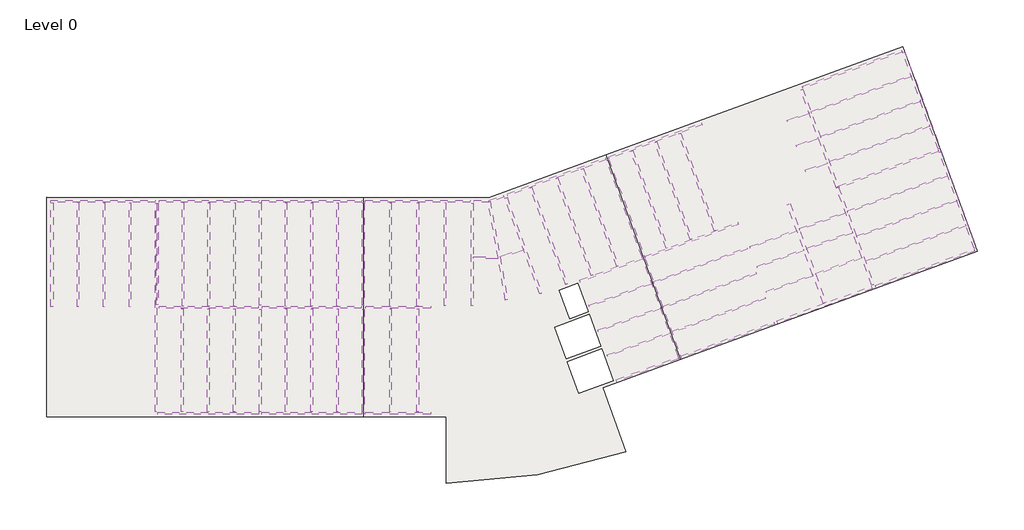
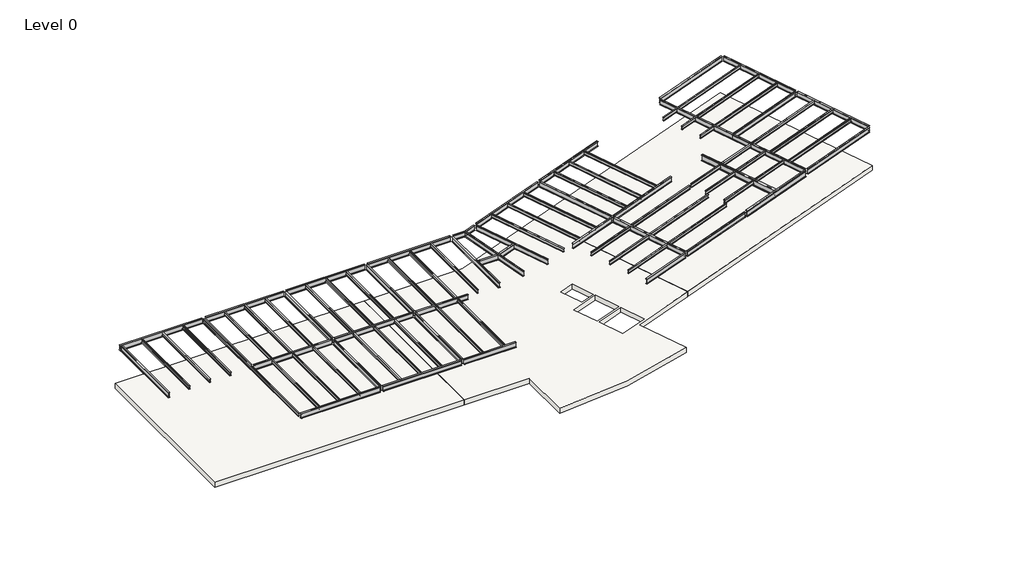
# One storey: 87 beams, 1 slab.
"""IFC4 building model written with IfcOpenShell, lengths in millimetres."""

from ifc_helpers import new_model, si_unit, point, frame, frame_2d, origin, place, context, project, spatial, polyline, circle_curve, trimmed, segment, composite_curve, outline, extrude, transform, mapped, element, save
from components import beam_3adde7b2, ub_universal_beams_d270934e, ub_universal_beams_e915e172, ub_universal_beams_a95554c7, ub_universal_beams_b6dbdd7a, ub_universal_beams_9ada3ad7, ub_universal_beams_885cc86f, ub_universal_beams_c84566a2, ub_universal_beams_4841b023, ub_universal_beams_bb2d3bd6, ub_universal_beams_20791346, ub_universal_beams_18d3feb0, ub_universal_beams_59459dd6, ub_universal_beams_568b5c51, ub_universal_beams_e00400c9, ub_universal_beams_14baedf7, ub_universal_beams_54dd217e, ub_universal_beams_f823aa85, ub_universal_beams_cdbcbb51, ub_universal_beams_2db27d90, ub_universal_beams_feb0265b, ub_universal_beams_78ad538f, ub_universal_beams_801fcbf0, ub_universal_beams_c91190e6, ub_universal_beams_7192e0ee, ub_universal_beams_e0a47d06, ub_universal_beams_f5dc209c, ub_universal_beams_f862a4b8, ub_universal_beams_0fc11a2d, ub_universal_beams_656765b2, ub_universal_beams_21f5ef47, ub_universal_beams_7b4bcd9a, ub_universal_beams_8d1efc97, ub_universal_beams_2b7a043a, ub_universal_beams_8d2b0bf5, ub_universal_beams_37de3949, ub_universal_beams_43212cfb, ub_universal_beams_777f85ab, ub_universal_beams_8ec85ef7, ub_universal_beams_16a75a32, ub_universal_beams_b9a7bbe5, ub_universal_beams_60794b88, ub_universal_beams_0c249d50

model = new_model("IFC4")

# Units and contexts
model_context = context("Model", 3, world=origin())
ifc_project = project(units=[si_unit("LENGTHUNIT", "METRE", prefix="MILLI")], contexts=[model_context])

# Site, building, storey
site = spatial("IfcSite", under=ifc_project)
building = spatial("IfcBuilding", under=site)
storey = spatial("IfcBuildingStorey", under=building, Name="Level 0", Elevation=0.0)

# Beams
placement = place(None, origin())
beam_shape = beam_3adde7b2(model_context)
element("IfcBeam", 1, ObjectType="Cranked Beam B1 : Cranked Beam B1", at=placement, inside=storey, context=model_context, shape_type="MappedRepresentation", body=[
    mapped(beam_shape, transform((0.0, 0.0, 0.0), x_axis=(1.0, 0.0, 0.0), y_axis=(0.0, 1.0, 0.0), z_axis=(0.0, 0.0, 1.0))),
])
ub_universal_beams_shape = ub_universal_beams_d270934e(model_context)
element("IfcBeam", 2, ObjectType="UB-Universal Beams : UB 18\" x 6\" x 2 1/2\"", at=placement, inside=storey, context=model_context, shape_type="MappedRepresentation", body=[
    mapped(ub_universal_beams_shape, transform((4212.2000022, 15363.2000005, 3466.0), x_axis=(1.0, 0.0, 0.0), y_axis=(0.0, 1.0, 0.0), z_axis=(0.0, 0.0, 1.0))),
])
ub_universal_beams_2_shape = ub_universal_beams_e915e172(model_context)
element("IfcBeam", 3, ObjectType="UB-Universal Beams : UB 18\" x 6\" x 2 1/2\"", at=placement, inside=storey, context=model_context, shape_type="MappedRepresentation", body=[
    mapped(ub_universal_beams_2_shape, transform((11712.2000023, 15363.2000005, 3466.0), x_axis=(1.0, 0.0, 0.0), y_axis=(0.0, 1.0, 0.0), z_axis=(0.0, 0.0, 1.0))),
])
ub_universal_beams_3_shape = ub_universal_beams_a95554c7(model_context)
element("IfcBeam", 4, ObjectType="UB-Universal Beams : UB 18\" x 6\" x 2 1/2\"", at=placement, inside=storey, context=model_context, shape_type="MappedRepresentation", body=[
    mapped(ub_universal_beams_3_shape, transform((19012.2000023, 15363.2000005, 3466.0), x_axis=(1.0, 0.0, 0.0), y_axis=(0.0, 1.0, 0.0), z_axis=(0.0, 0.0, 1.0))),
])
element("IfcBeam", 5, ObjectType="UB-Universal Beams : UB 18\" x 6\" x 2 1/2\"", at=placement, inside=storey, context=model_context, shape_type="MappedRepresentation", body=[
    mapped(ub_universal_beams_3_shape, transform((19012.2000022, 363.2000005, 3466.0), x_axis=(1.0, 0.0, 0.0), y_axis=(0.0, 1.0, 0.0), z_axis=(0.0, 0.0, 1.0))),
])
ub_universal_beams_4_shape = ub_universal_beams_b6dbdd7a(model_context)
element("IfcBeam", 6, ObjectType="UB-Universal Beams : UB 18\" x 6\" x 2 1/2\"", at=placement, inside=storey, context=model_context, shape_type="MappedRepresentation", body=[
    mapped(ub_universal_beams_4_shape, transform((26512.2000022, 15363.2000005, 3466.0), x_axis=(1.0, 0.0, 0.0), y_axis=(0.0, 1.0, 0.0), z_axis=(0.0, 0.0, 1.0))),
])
ub_universal_beams_5_shape = ub_universal_beams_9ada3ad7(model_context)
element("IfcBeam", 7, ObjectType="UB-Universal Beams : UB 18\" x 6\" x 2 1/2\"", at=placement, inside=storey, context=model_context, shape_type="MappedRepresentation", body=[
    mapped(ub_universal_beams_5_shape, transform((11674.7000023, 7863.2000004, 3466.0), x_axis=(-1.0, 0.0, 0.0), y_axis=(0.0, -1.0, 0.0), z_axis=(0.0, 0.0, 1.0))),
])
ub_universal_beams_6_shape = ub_universal_beams_885cc86f(model_context)
element("IfcBeam", 8, ObjectType="UB-Universal Beams : UB 18\" x 6\" x 2 1/2\"", at=placement, inside=storey, context=model_context, shape_type="MappedRepresentation", body=[
    mapped(ub_universal_beams_6_shape, transform((11674.7000023, 363.2000005, 3466.0), x_axis=(-1.0, 0.0, 0.0), y_axis=(0.0, -1.0, 0.0), z_axis=(0.0, 0.0, 1.0))),
])
ub_universal_beams_7_shape = ub_universal_beams_c84566a2(model_context)
element("IfcBeam", 9, ObjectType="UB-Universal Beams : UB 18\" x 6\" x 2 1/2\"", at=placement, inside=storey, context=model_context, shape_type="MappedRepresentation", body=[
    mapped(ub_universal_beams_7_shape, transform((19012.2000023, 7863.2000004, 3466.0), x_axis=(1.0, 0.0, 0.0), y_axis=(0.0, 1.0, 0.0), z_axis=(0.0, 0.0, 1.0))),
])
ub_universal_beams_8_shape = ub_universal_beams_4841b023(model_context)
element("IfcBeam", 10, ObjectType="UB-Universal Beams : UB 18\" x 6\" x 2 1/2\"", at=placement, inside=storey, context=model_context, shape_type="MappedRepresentation", body=[
    mapped(ub_universal_beams_8_shape, transform((25112.2000025, 7863.2000004, 3466.0), x_axis=(1.0, 0.0, 0.0), y_axis=(0.0, 1.0, 0.0), z_axis=(0.0, 0.0, 1.0))),
])
ub_universal_beams_9_shape = ub_universal_beams_bb2d3bd6(model_context)
element("IfcBeam", 11, ObjectType="UB-Universal Beams : UB 18\" x 6\" x 2 1/2\"", at=placement, inside=storey, context=model_context, shape_type="MappedRepresentation", body=[
    mapped(ub_universal_beams_9_shape, transform((614.1000027, 11575.7000004, 3466.0), x_axis=(0.0, 1.0, 0.0), y_axis=(-1.0, 0.0, 0.0), z_axis=(0.0, 0.0, 1.0))),
])
ub_universal_beams_10_shape = ub_universal_beams_20791346(model_context)
element("IfcBeam", 12, ObjectType="UB-Universal Beams : UB 18\" x 6\" x 2 1/2\"", at=placement, inside=storey, context=model_context, shape_type="MappedRepresentation", body=[
    mapped(ub_universal_beams_10_shape, transform((25112.2000025, 363.2000005, 3466.0), x_axis=(1.0, 0.0, 0.0), y_axis=(0.0, 1.0, 0.0), z_axis=(0.0, 0.0, 1.0))),
])
ub_universal_beams_11_shape = ub_universal_beams_18d3feb0(model_context)
element("IfcBeam", 13, ObjectType="UB-Universal Beams : UB 18\" x 6\" x 2 1/2\"", at=placement, inside=storey, context=model_context, shape_type="MappedRepresentation", body=[
    mapped(ub_universal_beams_11_shape, transform((8062.2000022, 11613.2000005, 3466.0), x_axis=(0.0, 1.0, 0.0), y_axis=(-1.0, 0.0, 0.0), z_axis=(0.0, 0.0, 1.0))),
])
ub_universal_beams_12_shape = ub_universal_beams_59459dd6(model_context)
element("IfcBeam", 14, ObjectType="UB-Universal Beams : UB 18\" x 6\" x 2 1/2\"", at=placement, inside=storey, context=model_context, shape_type="MappedRepresentation", body=[
    mapped(ub_universal_beams_12_shape, transform((15362.2000023, 4113.2000005, 3466.0), x_axis=(0.0, 1.0, 0.0), y_axis=(-1.0, 0.0, 0.0), z_axis=(0.0, 0.0, 1.0))),
])
element("IfcBeam", 15, ObjectType="UB-Universal Beams : UB 18\" x 6\" x 2 1/2\"", at=placement, inside=storey, context=model_context, shape_type="MappedRepresentation", body=[
    mapped(ub_universal_beams_12_shape, transform((22662.2000022, 4113.2000005, 3466.0), x_axis=(0.0, 1.0, 0.0), y_axis=(-1.0, 0.0, 0.0), z_axis=(0.0, 0.0, 1.0))),
])
ub_universal_beams_13_shape = ub_universal_beams_568b5c51(model_context)
element("IfcBeam", 16, ObjectType="UB-Universal Beams : UB 18\" x 6\" x 2 1/2\"", at=placement, inside=storey, context=model_context, shape_type="MappedRepresentation", body=[
    mapped(ub_universal_beams_13_shape, transform((15362.2000023, 11613.2000005, 3466.0), x_axis=(0.0, 1.0, 0.0), y_axis=(-1.0, 0.0, 0.0), z_axis=(0.0, 0.0, 1.0))),
])
element("IfcBeam", 17, ObjectType="UB-Universal Beams : UB 18\" x 6\" x 2 1/2\"", at=placement, inside=storey, context=model_context, shape_type="MappedRepresentation", body=[
    mapped(ub_universal_beams_13_shape, transform((22662.2000022, 11613.2000005, 3466.0), x_axis=(0.0, 1.0, 0.0), y_axis=(-1.0, 0.0, 0.0), z_axis=(0.0, 0.0, 1.0))),
])
ub_universal_beams_14_shape = ub_universal_beams_e00400c9(model_context)
element("IfcBeam", 18, ObjectType="UB-Universal Beams : UB 18\" x 6\" x 2 1/2\"", at=placement, inside=storey, context=model_context, shape_type="MappedRepresentation", body=[
    mapped(ub_universal_beams_14_shape, transform((30362.2000022, 11613.2000005, 3466.0), x_axis=(0.0, 1.0, 0.0), y_axis=(-1.0, 0.0, 0.0), z_axis=(0.0, 0.0, 1.0))),
])
ub_universal_beams_15_shape = ub_universal_beams_14baedf7(model_context)
element("IfcBeam", 19, ObjectType="UB-Universal Beams : UB 12\" x 5\" x 1 1/2\"", at=placement, inside=storey, context=model_context, shape_type="MappedRepresentation", body=[
    mapped(ub_universal_beams_15_shape, transform((2457.6125027, 11575.7000004, 3542.8), x_axis=(0.0, 1.0, 0.0), y_axis=(-1.0, 0.0, 0.0), z_axis=(0.0, 0.0, 1.0))),
])
element("IfcBeam", 20, ObjectType="UB-Universal Beams : UB 12\" x 5\" x 1 1/2\"", at=placement, inside=storey, context=model_context, shape_type="MappedRepresentation", body=[
    mapped(ub_universal_beams_15_shape, transform((4301.1250026, 11575.7000004, 3542.8), x_axis=(0.0, 1.0, 0.0), y_axis=(-1.0, 0.0, 0.0), z_axis=(0.0, 0.0, 1.0))),
])
element("IfcBeam", 21, ObjectType="UB-Universal Beams : UB 12\" x 5\" x 1 1/2\"", at=placement, inside=storey, context=model_context, shape_type="MappedRepresentation", body=[
    mapped(ub_universal_beams_15_shape, transform((6144.6375025, 11575.7000005, 3542.8), x_axis=(0.0, 1.0, 0.0), y_axis=(-1.0, 0.0, 0.0), z_axis=(0.0, 0.0, 1.0))),
])
ub_universal_beams_16_shape = ub_universal_beams_54dd217e(model_context)
element("IfcBeam", 22, ObjectType="UB-Universal Beams : UB 12\" x 5\" x 1 1/2\"", at=placement, inside=storey, context=model_context, shape_type="MappedRepresentation", body=[
    mapped(ub_universal_beams_16_shape, transform((7988.1500025, 7863.2000005, 3542.8), x_axis=(0.0, 1.0, 0.0), y_axis=(-1.0, 0.0, 0.0), z_axis=(0.0, 0.0, 1.0))),
])
ub_universal_beams_17_shape = ub_universal_beams_f823aa85(model_context)
element("IfcBeam", 23, ObjectType="UB-Universal Beams : UB 12\" x 5\" x 1 1/2\"", at=placement, inside=storey, context=model_context, shape_type="MappedRepresentation", body=[
    mapped(ub_universal_beams_17_shape, transform((9831.6625024, 4113.2000005, 3542.8), x_axis=(0.0, 1.0, 0.0), y_axis=(-1.0, 0.0, 0.0), z_axis=(0.0, 0.0, 1.0))),
])
element("IfcBeam", 24, ObjectType="UB-Universal Beams : UB 12\" x 5\" x 1 1/2\"", at=placement, inside=storey, context=model_context, shape_type="MappedRepresentation", body=[
    mapped(ub_universal_beams_17_shape, transform((11675.1750024, 4113.2000005, 3542.8), x_axis=(0.0, 1.0, 0.0), y_axis=(-1.0, 0.0, 0.0), z_axis=(0.0, 0.0, 1.0))),
])
element("IfcBeam", 25, ObjectType="UB-Universal Beams : UB 12\" x 5\" x 1 1/2\"", at=placement, inside=storey, context=model_context, shape_type="MappedRepresentation", body=[
    mapped(ub_universal_beams_17_shape, transform((13518.6875023, 4113.2000005, 3542.8), x_axis=(0.0, 1.0, 0.0), y_axis=(-1.0, 0.0, 0.0), z_axis=(0.0, 0.0, 1.0))),
])
element("IfcBeam", 26, ObjectType="UB-Universal Beams : UB 12\" x 5\" x 1 1/2\"", at=placement, inside=storey, context=model_context, shape_type="MappedRepresentation", body=[
    mapped(ub_universal_beams_17_shape, transform((9887.2000022, 11613.2000005, 3542.8), x_axis=(0.0, 1.0, 0.0), y_axis=(-1.0, 0.0, 0.0), z_axis=(0.0, 0.0, 1.0))),
])
element("IfcBeam", 27, ObjectType="UB-Universal Beams : UB 12\" x 5\" x 1 1/2\"", at=placement, inside=storey, context=model_context, shape_type="MappedRepresentation", body=[
    mapped(ub_universal_beams_17_shape, transform((11712.2000022, 11613.2000005, 3542.8), x_axis=(0.0, 1.0, 0.0), y_axis=(-1.0, 0.0, 0.0), z_axis=(0.0, 0.0, 1.0))),
])
element("IfcBeam", 28, ObjectType="UB-Universal Beams : UB 12\" x 5\" x 1 1/2\"", at=placement, inside=storey, context=model_context, shape_type="MappedRepresentation", body=[
    mapped(ub_universal_beams_17_shape, transform((13537.2000023, 11613.2000005, 3542.8), x_axis=(0.0, 1.0, 0.0), y_axis=(-1.0, 0.0, 0.0), z_axis=(0.0, 0.0, 1.0))),
])
element("IfcBeam", 29, ObjectType="UB-Universal Beams : UB 12\" x 5\" x 1 1/2\"", at=placement, inside=storey, context=model_context, shape_type="MappedRepresentation", body=[
    mapped(ub_universal_beams_17_shape, transform((17187.2000023, 11613.2000005, 3542.8), x_axis=(0.0, 1.0, 0.0), y_axis=(-1.0, 0.0, 0.0), z_axis=(0.0, 0.0, 1.0))),
])
element("IfcBeam", 30, ObjectType="UB-Universal Beams : UB 12\" x 5\" x 1 1/2\"", at=placement, inside=storey, context=model_context, shape_type="MappedRepresentation", body=[
    mapped(ub_universal_beams_17_shape, transform((19012.2000023, 11613.2000005, 3542.8), x_axis=(0.0, 1.0, 0.0), y_axis=(-1.0, 0.0, 0.0), z_axis=(0.0, 0.0, 1.0))),
])
element("IfcBeam", 31, ObjectType="UB-Universal Beams : UB 12\" x 5\" x 1 1/2\"", at=placement, inside=storey, context=model_context, shape_type="MappedRepresentation", body=[
    mapped(ub_universal_beams_17_shape, transform((20837.2000022, 11613.2000005, 3542.8), x_axis=(0.0, 1.0, 0.0), y_axis=(-1.0, 0.0, 0.0), z_axis=(0.0, 0.0, 1.0))),
])
element("IfcBeam", 32, ObjectType="UB-Universal Beams : UB 12\" x 5\" x 1 1/2\"", at=placement, inside=storey, context=model_context, shape_type="MappedRepresentation", body=[
    mapped(ub_universal_beams_17_shape, transform((24587.2000022, 11613.2000005, 3542.8), x_axis=(0.0, 1.0, 0.0), y_axis=(-1.0, 0.0, 0.0), z_axis=(0.0, 0.0, 1.0))),
])
element("IfcBeam", 33, ObjectType="UB-Universal Beams : UB 12\" x 5\" x 1 1/2\"", at=placement, inside=storey, context=model_context, shape_type="MappedRepresentation", body=[
    mapped(ub_universal_beams_17_shape, transform((26512.2000022, 11613.2000005, 3542.8), x_axis=(0.0, 1.0, 0.0), y_axis=(-1.0, 0.0, 0.0), z_axis=(0.0, 0.0, 1.0))),
])
element("IfcBeam", 34, ObjectType="UB-Universal Beams : UB 12\" x 5\" x 1 1/2\"", at=placement, inside=storey, context=model_context, shape_type="MappedRepresentation", body=[
    mapped(ub_universal_beams_17_shape, transform((17187.2000022, 4113.2000005, 3542.8), x_axis=(0.0, 1.0, 0.0), y_axis=(-1.0, 0.0, 0.0), z_axis=(0.0, 0.0, 1.0))),
])
element("IfcBeam", 35, ObjectType="UB-Universal Beams : UB 12\" x 5\" x 1 1/2\"", at=placement, inside=storey, context=model_context, shape_type="MappedRepresentation", body=[
    mapped(ub_universal_beams_17_shape, transform((19012.2000022, 4113.2000005, 3542.8), x_axis=(0.0, 1.0, 0.0), y_axis=(-1.0, 0.0, 0.0), z_axis=(0.0, 0.0, 1.0))),
])
element("IfcBeam", 36, ObjectType="UB-Universal Beams : UB 12\" x 5\" x 1 1/2\"", at=placement, inside=storey, context=model_context, shape_type="MappedRepresentation", body=[
    mapped(ub_universal_beams_17_shape, transform((20837.2000022, 4113.2000005, 3542.8), x_axis=(0.0, 1.0, 0.0), y_axis=(-1.0, 0.0, 0.0), z_axis=(0.0, 0.0, 1.0))),
])
element("IfcBeam", 37, ObjectType="UB-Universal Beams : UB 12\" x 5\" x 1 1/2\"", at=placement, inside=storey, context=model_context, shape_type="MappedRepresentation", body=[
    mapped(ub_universal_beams_17_shape, transform((24587.2000022, 4113.2000004, 3542.8), x_axis=(0.0, 1.0, 0.0), y_axis=(-1.0, 0.0, 0.0), z_axis=(0.0, 0.0, 1.0))),
])
element("IfcBeam", 38, ObjectType="UB-Universal Beams : UB 12\" x 5\" x 1 1/2\"", at=placement, inside=storey, context=model_context, shape_type="MappedRepresentation", body=[
    mapped(ub_universal_beams_17_shape, transform((26512.2000022, 4113.2000004, 3542.8), x_axis=(0.0, 1.0, 0.0), y_axis=(-1.0, 0.0, 0.0), z_axis=(0.0, 0.0, 1.0))),
])
element("IfcBeam", 39, ObjectType="UB-Universal Beams : UB 12\" x 5\" x 1 1/2\"", at=placement, inside=storey, context=model_context, shape_type="MappedRepresentation", body=[
    mapped(ub_universal_beams_17_shape, transform((39409.0148654, 14226.6858637, 3542.8), x_axis=(0.34202014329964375, -0.9396926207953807, 0.0), y_axis=(0.9396926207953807, 0.34202014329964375, 0.0), z_axis=(0.0, 0.0, 1.0))),
])
element("IfcBeam", 40, ObjectType="UB-Universal Beams : UB 12\" x 5\" x 1 1/2\"", at=placement, inside=storey, context=model_context, shape_type="MappedRepresentation", body=[
    mapped(ub_universal_beams_17_shape, transform((37600.1065704, 13568.2970878, 3542.8), x_axis=(0.34202014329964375, -0.9396926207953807, 0.0), y_axis=(0.9396926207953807, 0.34202014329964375, 0.0), z_axis=(0.0, 0.0, 1.0))),
])
element("IfcBeam", 41, ObjectType="UB-Universal Beams : UB 12\" x 5\" x 1 1/2\"", at=placement, inside=storey, context=model_context, shape_type="MappedRepresentation", body=[
    mapped(ub_universal_beams_17_shape, transform((42915.2429568, 15502.8485233, 3542.8), x_axis=(-0.3420201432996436, 0.9396926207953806, 0.0), y_axis=(-0.9396926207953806, -0.3420201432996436, 0.0), z_axis=(0.0, 0.0, 1.0))),
])
element("IfcBeam", 42, ObjectType="UB-Universal Beams : UB 12\" x 5\" x 1 1/2\"", at=placement, inside=storey, context=model_context, shape_type="MappedRepresentation", body=[
    mapped(ub_universal_beams_17_shape, transform((44612.5627531, 16120.6224071, 3542.8), x_axis=(-0.34202014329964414, 0.9396926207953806, 0.0), y_axis=(-0.9396926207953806, -0.34202014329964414, 0.0), z_axis=(0.0, 0.0, 1.0))),
])
element("IfcBeam", 43, ObjectType="UB-Universal Beams : UB 12\" x 5\" x 1 1/2\"", at=placement, inside=storey, context=model_context, shape_type="MappedRepresentation", body=[
    mapped(ub_universal_beams_17_shape, transform((46309.8825494, 16738.396291, 3542.8), x_axis=(-0.34202014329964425, 0.9396926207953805, 0.0), y_axis=(-0.9396926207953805, -0.34202014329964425, 0.0), z_axis=(0.0, 0.0, 1.0))),
])
ub_universal_beams_18_shape = ub_universal_beams_cdbcbb51(model_context)
element("IfcBeam", 44, ObjectType="UB-Universal Beams : UB 12\" x 5\" x 1 1/2\"", at=placement, inside=storey, context=model_context, shape_type="MappedRepresentation", body=[
    mapped(ub_universal_beams_18_shape, transform((28437.2000022, 11613.2000005, 3542.8), x_axis=(0.0, 1.0, 0.0), y_axis=(-1.0, 0.0, 0.0), z_axis=(0.0, 0.0, 1.0))),
])
ub_universal_beams_19_shape = ub_universal_beams_2db27d90(model_context)
element("IfcBeam", 45, ObjectType="UB-Universal Beams : UB 18\" x 6\" x 2 1/2\"", at=placement, inside=storey, context=model_context, shape_type="MappedRepresentation", body=[
    mapped(ub_universal_beams_19_shape, transform((33982.2899804, 12251.5195361, 3466.0), x_axis=(0.3420201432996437, -0.9396926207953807, 0.0), y_axis=(0.9396926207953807, 0.3420201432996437, 0.0), z_axis=(0.0, 0.0, 1.0))),
])
ub_universal_beams_20_shape = ub_universal_beams_feb0265b(model_context)
element("IfcBeam", 46, ObjectType="UB-Universal Beams : UB 18\" x 6\" x 2 1/2\"", at=placement, inside=storey, context=model_context, shape_type="MappedRepresentation", body=[
    mapped(ub_universal_beams_20_shape, transform((32191.7898055, 11821.5156209, 3466.0), x_axis=(0.173648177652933, -0.9848077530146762, 0.0), y_axis=(0.9848077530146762, 0.173648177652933, 0.0), z_axis=(0.0, 0.0, 1.0))),
])
ub_universal_beams_21_shape = ub_universal_beams_78ad538f(model_context)
element("IfcBeam", 47, ObjectType="UB-Universal Beams : UB 18\" x 6\" x 2 1/2\"", at=placement, inside=storey, context=model_context, shape_type="MappedRepresentation", body=[
    mapped(ub_universal_beams_21_shape, transform((31317.5755278, 11361.2273115, 3466.0), x_axis=(1.0, 0.0, 0.0), y_axis=(0.0, 1.0, 0.0), z_axis=(0.0, 0.0, 1.0))),
])
ub_universal_beams_22_shape = ub_universal_beams_801fcbf0(model_context)
element("IfcBeam", 48, ObjectType="UB-Universal Beams : UB 18\" x 6\" x 2 1/2\"", at=placement, inside=storey, context=model_context, shape_type="MappedRepresentation", body=[
    mapped(ub_universal_beams_22_shape, transform((33170.7103845, 11687.9849855, 3466.0), x_axis=(0.9396926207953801, 0.3420201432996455, 0.0), y_axis=(-0.3420201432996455, 0.9396926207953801, 0.0), z_axis=(0.0, 0.0, 1.0))),
])
ub_universal_beams_23_shape = ub_universal_beams_c91190e6(model_context)
element("IfcBeam", 49, ObjectType="UB-Universal Beams : UB 18\" x 6\" x 2 1/2\"", at=placement, inside=storey, context=model_context, shape_type="MappedRepresentation", body=[
    mapped(ub_universal_beams_23_shape, transform((36317.5310328, 17092.1444158, 3466.0), x_axis=(0.9396926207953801, 0.3420201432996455, 0.0), y_axis=(-0.3420201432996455, 0.9396926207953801, 0.0), z_axis=(0.0, 0.0, 1.0))),
])
ub_universal_beams_24_shape = ub_universal_beams_7192e0ee(model_context)
element("IfcBeam", 50, ObjectType="UB-Universal Beams : UB 18\" x 6\" x 2 1/2\"", at=placement, inside=storey, context=model_context, shape_type="MappedRepresentation", body=[
    mapped(ub_universal_beams_24_shape, transform((43329.9872158, 19644.4697351, 3466.0), x_axis=(0.9396926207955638, 0.3420201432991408, 0.0), y_axis=(-0.3420201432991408, 0.9396926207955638, 0.0), z_axis=(0.0, 0.0, 1.0))),
])
element("IfcBeam", 51, ObjectType="UB-Universal Beams : UB 18\" x 6\" x 2 1/2\"", at=placement, inside=storey, context=model_context, shape_type="MappedRepresentation", body=[
    mapped(ub_universal_beams_24_shape, transform((45895.1382905, 12596.7750792, 3466.0), x_axis=(0.9396926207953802, 0.34202014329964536, 0.0), y_axis=(-0.34202014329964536, 0.9396926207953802, 0.0), z_axis=(0.0, 0.0, 1.0))),
])
element("IfcBeam", 52, ObjectType="UB-Universal Beams : UB 18\" x 6\" x 2 1/2\"", at=placement, inside=storey, context=model_context, shape_type="MappedRepresentation", body=[
    mapped(ub_universal_beams_24_shape, transform((48460.2893652, 5549.0804232, 3466.0), x_axis=(0.9396926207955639, 0.3420201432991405, 0.0), y_axis=(-0.3420201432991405, 0.9396926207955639, 0.0), z_axis=(0.0, 0.0, 1.0))),
])
ub_universal_beams_25_shape = ub_universal_beams_e0a47d06(model_context)
element("IfcBeam", 53, ObjectType="UB-Universal Beams : UB 18\" x 6\" x 2 1/2\"", at=placement, inside=storey, context=model_context, shape_type="MappedRepresentation", body=[
    mapped(ub_universal_beams_25_shape, transform((40198.2517768, 10523.2779603, 3466.0), x_axis=(0.9396926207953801, 0.34202014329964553, 0.0), y_axis=(-0.34202014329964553, 0.9396926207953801, 0.0), z_axis=(0.0, 0.0, 1.0))),
])
ub_universal_beams_26_shape = ub_universal_beams_f5dc209c(model_context)
element("IfcBeam", 54, ObjectType="UB-Universal Beams : UB 18\" x 6\" x 2 1/2\"", at=placement, inside=storey, context=model_context, shape_type="MappedRepresentation", body=[
    mapped(ub_universal_beams_26_shape, transform((41217.9231605, 14885.0746394, 3466.0), x_axis=(-0.3420201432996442, 0.9396926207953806, 0.0), y_axis=(-0.9396926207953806, -0.3420201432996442, 0.0), z_axis=(0.0, 0.0, 1.0))),
])
element("IfcBeam", 55, ObjectType="UB-Universal Beams : UB 18\" x 6\" x 2 1/2\"", at=placement, inside=storey, context=model_context, shape_type="MappedRepresentation", body=[
    mapped(ub_universal_beams_26_shape, transform((43783.0742352, 7837.3799835, 3466.0), x_axis=(-0.3420201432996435, 0.939692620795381, 0.0), y_axis=(-0.939692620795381, -0.3420201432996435, 0.0), z_axis=(0.0, 0.0, 1.0))),
])
ub_universal_beams_27_shape = ub_universal_beams_f862a4b8(model_context)
element("IfcBeam", 56, ObjectType="UB-Universal Beams : UB 18\" x 6\" x 2 1/2\"", at=placement, inside=storey, context=model_context, shape_type="MappedRepresentation", body=[
    mapped(ub_universal_beams_27_shape, transform((42763.4028515, 3475.5833044, 3466.0), x_axis=(-0.9396926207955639, -0.34202014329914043, 0.0), y_axis=(0.34202014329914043, -0.9396926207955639, 0.0), z_axis=(0.0, 0.0, 1.0))),
])
ub_universal_beams_28_shape = ub_universal_beams_0fc11a2d(model_context)
element("IfcBeam", 57, ObjectType="UB-Universal Beams : UB 20 1/2\" x 8 1/2\" x 3 1/2\"", at=placement, inside=storey, context=model_context, shape_type="MappedRepresentation", body=[
    mapped(ub_universal_beams_28_shape, transform((55320.045497, 8045.8274693, 3430.85), x_axis=(0.9396926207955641, 0.3420201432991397, 0.0), y_axis=(-0.3420201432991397, 0.9396926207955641, 0.0), z_axis=(0.0, 0.0, 1.0))),
])
ub_universal_beams_29_shape = ub_universal_beams_656765b2(model_context)
element("IfcBeam", 58, ObjectType="UB-Universal Beams : UB 18\" x 6\" x 2 1/2\"", at=placement, inside=storey, context=model_context, shape_type="MappedRepresentation", body=[
    mapped(ub_universal_beams_29_shape, transform((62402.9786263, 10623.8042994, 3466.0), x_axis=(0.9396926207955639, 0.34202014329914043, 0.0), y_axis=(-0.34202014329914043, 0.9396926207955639, 0.0), z_axis=(0.0, 0.0, 1.0))),
])
element("IfcBeam", 59, ObjectType="UB-Universal Beams : UB 18\" x 6\" x 2 1/2\"", at=placement, inside=storey, context=model_context, shape_type="MappedRepresentation", body=[
    mapped(ub_universal_beams_26_shape, transform((64738.219679, 15464.4291791, 3466.0), x_axis=(-0.34202014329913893, 0.9396926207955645, 0.0), y_axis=(-0.9396926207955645, -0.34202014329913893, 0.0), z_axis=(0.0, 0.0, 1.0))),
])
element("IfcBeam", 60, ObjectType="UB-Universal Beams : UB 18\" x 6\" x 2 1/2\"", at=placement, inside=storey, context=model_context, shape_type="MappedRepresentation", body=[
    mapped(ub_universal_beams_26_shape, transform((62173.0686043, 22512.123835, 3466.0), x_axis=(-0.3420201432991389, 0.9396926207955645, 0.0), y_axis=(-0.9396926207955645, -0.3420201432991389, 0.0), z_axis=(0.0, 0.0, 1.0))),
])
ub_universal_beams_30_shape = ub_universal_beams_21f5ef47(model_context)
element("IfcBeam", 61, ObjectType="UB-Universal Beams : UB 18\" x 6\" x 2 1/2\"", at=placement, inside=storey, context=model_context, shape_type="MappedRepresentation", body=[
    mapped(ub_universal_beams_30_shape, transform((57272.6764768, 24719.1936113, 3466.0), x_axis=(-0.9396926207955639, -0.3420201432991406, 0.0), y_axis=(0.3420201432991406, -0.9396926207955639, 0.0), z_axis=(0.0, 0.0, 1.0))),
])
ub_universal_beams_31_shape = ub_universal_beams_7b4bcd9a(model_context)
element("IfcBeam", 62, ObjectType="UB-Universal Beams : UB 18\" x 6\" x 2 1/2\"", at=placement, inside=storey, context=model_context, shape_type="MappedRepresentation", body=[
    mapped(ub_universal_beams_31_shape, transform((54937.4354241, 19878.5687316, 3466.0), x_axis=(-0.3420201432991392, 0.9396926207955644, 0.0), y_axis=(-0.9396926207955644, -0.3420201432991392, 0.0), z_axis=(0.0, 0.0, 1.0))),
])
ub_universal_beams_32_shape = ub_universal_beams_8d1efc97(model_context)
element("IfcBeam", 63, ObjectType="UB-Universal Beams : UB 12\" x 5\" x 1 1/2\"", at=placement, inside=storey, context=model_context, shape_type="MappedRepresentation", body=[
    mapped(ub_universal_beams_32_shape, transform((35791.1982754, 12909.908312, 3542.8), x_axis=(0.3420201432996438, -0.9396926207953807, 0.0), y_axis=(0.9396926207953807, 0.3420201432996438, 0.0), z_axis=(0.0, 0.0, 1.0))),
])
ub_universal_beams_33_shape = ub_universal_beams_2b7a043a(model_context)
element("IfcBeam", 64, ObjectType="UB-Universal Beams : UB 12\" x 5\" x 1 1/2\"", at=placement, inside=storey, context=model_context, shape_type="MappedRepresentation", body=[
    mapped(ub_universal_beams_33_shape, transform((42122.1150828, 5237.5069684, 3542.8), x_axis=(-0.939692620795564, -0.3420201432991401, 0.0), y_axis=(0.3420201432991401, -0.939692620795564, 0.0), z_axis=(0.0, 0.0, 1.0))),
])
element("IfcBeam", 65, ObjectType="UB-Universal Beams : UB 12\" x 5\" x 1 1/2\"", at=placement, inside=storey, context=model_context, shape_type="MappedRepresentation", body=[
    mapped(ub_universal_beams_33_shape, transform((41480.8273141, 6999.4306323, 3542.8), x_axis=(-0.9396926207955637, -0.3420201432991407, 0.0), y_axis=(0.3420201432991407, -0.9396926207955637, 0.0), z_axis=(0.0, 0.0, 1.0))),
])
element("IfcBeam", 66, ObjectType="UB-Universal Beams : UB 12\" x 5\" x 1 1/2\"", at=placement, inside=storey, context=model_context, shape_type="MappedRepresentation", body=[
    mapped(ub_universal_beams_33_shape, transform((40839.5395455, 8761.3542963, 3542.8), x_axis=(-0.939692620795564, -0.3420201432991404, 0.0), y_axis=(0.3420201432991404, -0.939692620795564, 0.0), z_axis=(0.0, 0.0, 1.0))),
])
ub_universal_beams_34_shape = ub_universal_beams_8d2b0bf5(model_context)
element("IfcBeam", 67, ObjectType="UB-Universal Beams : UB 12\" x 5\" x 1 1/2\"", at=placement, inside=storey, context=model_context, shape_type="MappedRepresentation", body=[
    mapped(ub_universal_beams_34_shape, transform((46536.4260592, 10834.8514152, 3542.8), x_axis=(0.9396926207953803, 0.342020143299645, 0.0), y_axis=(-0.342020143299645, 0.9396926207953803, 0.0), z_axis=(0.0, 0.0, 1.0))),
])
element("IfcBeam", 68, ObjectType="UB-Universal Beams : UB 12\" x 5\" x 1 1/2\"", at=placement, inside=storey, context=model_context, shape_type="MappedRepresentation", body=[
    mapped(ub_universal_beams_34_shape, transform((47177.7138279, 9072.9277512, 3542.8), x_axis=(0.9396926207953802, 0.34202014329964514, 0.0), y_axis=(-0.34202014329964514, 0.9396926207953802, 0.0), z_axis=(0.0, 0.0, 1.0))),
])
element("IfcBeam", 69, ObjectType="UB-Universal Beams : UB 12\" x 5\" x 1 1/2\"", at=placement, inside=storey, context=model_context, shape_type="MappedRepresentation", body=[
    mapped(ub_universal_beams_34_shape, transform((47819.0015966, 7311.0040872, 3542.8), x_axis=(0.9396926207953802, 0.3420201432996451, 0.0), y_axis=(-0.3420201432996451, 0.9396926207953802, 0.0), z_axis=(0.0, 0.0, 1.0))),
])
ub_universal_beams_35_shape = ub_universal_beams_37de3949(model_context)
element("IfcBeam", 70, ObjectType="UB-Universal Beams : UB 18\" x 6\" x 2 1/2\"", at=placement, inside=storey, context=model_context, shape_type="MappedRepresentation", body=[
    mapped(ub_universal_beams_35_shape, transform((59849.5737093, 17675.7742072, 3466.0), x_axis=(0.9396926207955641, 0.3420201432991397, 0.0), y_axis=(-0.3420201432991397, 0.9396926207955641, 0.0), z_axis=(0.0, 0.0, 1.0))),
])
ub_universal_beams_36_shape = ub_universal_beams_43212cfb(model_context)
element("IfcBeam", 71, ObjectType="UB-Universal Beams : UB 18\" x 6\" x 2 1/2\"", at=placement, inside=storey, context=model_context, shape_type="MappedRepresentation", body=[
    mapped(ub_universal_beams_36_shape, transform((57502.5864988, 12830.8740757, 3466.0), x_axis=(0.3420201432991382, -0.9396926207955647, 0.0), y_axis=(0.9396926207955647, 0.3420201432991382, 0.0), z_axis=(0.0, 0.0, 1.0))),
])
ub_universal_beams_37_shape = ub_universal_beams_777f85ab(model_context)
element("IfcBeam", 72, ObjectType="UB-Universal Beams : UB 12\" x 5\" x 1 1/2\"", at=placement, inside=storey, context=model_context, shape_type="MappedRepresentation", body=[
    mapped(ub_universal_beams_37_shape, transform((60479.1153202, 15909.5752914, 3542.8), x_axis=(0.9396926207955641, 0.34202014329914, 0.0), y_axis=(-0.34202014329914, 0.9396926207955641, 0.0), z_axis=(0.0, 0.0, 1.0))),
])
element("IfcBeam", 73, ObjectType="UB-Universal Beams : UB 12\" x 5\" x 1 1/2\"", at=placement, inside=storey, context=model_context, shape_type="MappedRepresentation", body=[
    mapped(ub_universal_beams_37_shape, transform((61120.4030889, 14147.6516274, 3542.8), x_axis=(0.9396926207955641, 0.34202014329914, 0.0), y_axis=(-0.34202014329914, 0.9396926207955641, 0.0), z_axis=(0.0, 0.0, 1.0))),
])
element("IfcBeam", 74, ObjectType="UB-Universal Beams : UB 12\" x 5\" x 1 1/2\"", at=placement, inside=storey, context=model_context, shape_type="MappedRepresentation", body=[
    mapped(ub_universal_beams_37_shape, transform((61761.6908576, 12385.7279634, 3542.8), x_axis=(0.9396926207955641, 0.3420201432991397, 0.0), y_axis=(-0.3420201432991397, 0.9396926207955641, 0.0), z_axis=(0.0, 0.0, 1.0))),
])
element("IfcBeam", 75, ObjectType="UB-Universal Beams : UB 12\" x 5\" x 1 1/2\"", at=placement, inside=storey, context=model_context, shape_type="MappedRepresentation", body=[
    mapped(ub_universal_beams_37_shape, transform((57913.9642455, 22957.2699473, 3542.8), x_axis=(0.9396926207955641, 0.3420201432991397, 0.0), y_axis=(-0.3420201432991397, 0.9396926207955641, 0.0), z_axis=(0.0, 0.0, 1.0))),
])
element("IfcBeam", 76, ObjectType="UB-Universal Beams : UB 12\" x 5\" x 1 1/2\"", at=placement, inside=storey, context=model_context, shape_type="MappedRepresentation", body=[
    mapped(ub_universal_beams_37_shape, transform((58555.2520142, 21195.3462833, 3542.8), x_axis=(0.9396926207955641, 0.3420201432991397, 0.0), y_axis=(-0.3420201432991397, 0.9396926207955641, 0.0), z_axis=(0.0, 0.0, 1.0))),
])
element("IfcBeam", 77, ObjectType="UB-Universal Beams : UB 12\" x 5\" x 1 1/2\"", at=placement, inside=storey, context=model_context, shape_type="MappedRepresentation", body=[
    mapped(ub_universal_beams_37_shape, transform((59196.5397829, 19433.4226193, 3542.8), x_axis=(0.9396926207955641, 0.3420201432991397, 0.0), y_axis=(-0.3420201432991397, 0.9396926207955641, 0.0), z_axis=(0.0, 0.0, 1.0))),
])
ub_universal_beams_38_shape = ub_universal_beams_8ec85ef7(model_context)
element("IfcBeam", 78, ObjectType="UB-Universal Beams : UB 20 1/2\" x 8 1/2\" x 3 1/2\"", at=placement, inside=storey, context=model_context, shape_type="MappedRepresentation", body=[
    mapped(ub_universal_beams_38_shape, transform((54042.3541451, 11665.8982726, 3430.85), x_axis=(-0.34202014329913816, 0.9396926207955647, 0.0), y_axis=(-0.9396926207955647, -0.34202014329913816, 0.0), z_axis=(0.0, 0.0, 1.0))),
])
ub_universal_beams_39_shape = ub_universal_beams_16a75a32(model_context)
element("IfcBeam", 79, ObjectType="UB-Universal Beams : UB 12\" x 5\" x 1 1/2\"", at=placement, inside=storey, context=model_context, shape_type="MappedRepresentation", body=[
    mapped(ub_universal_beams_39_shape, transform((52185.7228693, 11321.365084, 3542.8), x_axis=(0.9396926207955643, 0.3420201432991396, 0.0), y_axis=(-0.3420201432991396, 0.9396926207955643, 0.0), z_axis=(0.0, 0.0, 1.0))),
])
element("IfcBeam", 80, ObjectType="UB-Universal Beams : UB 12\" x 5\" x 1 1/2\"", at=placement, inside=storey, context=model_context, shape_type="MappedRepresentation", body=[
    mapped(ub_universal_beams_39_shape, transform((51681.2431579, 12707.4116997, 3542.8), x_axis=(0.9396926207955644, 0.34202014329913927, 0.0), y_axis=(-0.34202014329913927, 0.9396926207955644, 0.0), z_axis=(0.0, 0.0, 1.0))),
])
ub_universal_beams_40_shape = ub_universal_beams_b9a7bbe5(model_context)
element("IfcBeam", 81, ObjectType="UB-Universal Beams : UB 12\" x 5\" x 1 1/2\"", at=placement, inside=storey, context=model_context, shape_type="MappedRepresentation", body=[
    mapped(ub_universal_beams_40_shape, transform((55650.8394085, 12582.5643624, 3542.8), x_axis=(0.939692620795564, 0.34202014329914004, 0.0), y_axis=(-0.34202014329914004, 0.939692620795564, 0.0), z_axis=(0.0, 0.0, 1.0))),
])
element("IfcBeam", 82, ObjectType="UB-Universal Beams : UB 12\" x 5\" x 1 1/2\"", at=placement, inside=storey, context=model_context, shape_type="MappedRepresentation", body=[
    mapped(ub_universal_beams_40_shape, transform((56300.6776807, 10797.1483829, 3542.8), x_axis=(0.9396926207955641, 0.3420201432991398, 0.0), y_axis=(-0.3420201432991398, 0.9396926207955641, 0.0), z_axis=(0.0, 0.0, 1.0))),
])
element("IfcBeam", 83, ObjectType="UB-Universal Beams : UB 12\" x 5\" x 1 1/2\"", at=placement, inside=storey, context=model_context, shape_type="MappedRepresentation", body=[
    mapped(ub_universal_beams_40_shape, transform((55146.3596971, 13968.6109781, 3542.8), x_axis=(0.9396926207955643, 0.34202014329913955, 0.0), y_axis=(-0.34202014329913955, 0.9396926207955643, 0.0), z_axis=(0.0, 0.0, 1.0))),
])
ub_universal_beams_41_shape = ub_universal_beams_60794b88(model_context)
element("IfcBeam", 84, ObjectType="UB-Universal Beams : UB 12\" x 5\" x 1 1/2\"", at=placement, inside=storey, context=model_context, shape_type="MappedRepresentation", body=[
    mapped(ub_universal_beams_41_shape, transform((53431.3248942, 21325.7226526, 3542.8), x_axis=(-0.939692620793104, -0.34202014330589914, 0.0), y_axis=(0.34202014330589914, -0.939692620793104, 0.0), z_axis=(0.0, 0.0, 1.0))),
])
element("IfcBeam", 85, ObjectType="UB-Universal Beams : UB 12\" x 5\" x 1 1/2\"", at=placement, inside=storey, context=model_context, shape_type="MappedRepresentation", body=[
    mapped(ub_universal_beams_41_shape, transform((54072.6126629, 19563.7989886, 3542.8), x_axis=(-0.939692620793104, -0.3420201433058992, 0.0), y_axis=(0.3420201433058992, -0.939692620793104, 0.0), z_axis=(0.0, 0.0, 1.0))),
])
element("IfcBeam", 86, ObjectType="UB-Universal Beams : UB 12\" x 5\" x 1 1/2\"", at=placement, inside=storey, context=model_context, shape_type="MappedRepresentation", body=[
    mapped(ub_universal_beams_41_shape, transform((54713.9004316, 17801.8753247, 3542.8), x_axis=(-0.939692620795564, -0.34202014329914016, 0.0), y_axis=(0.34202014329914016, -0.939692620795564, 0.0), z_axis=(0.0, 0.0, 1.0))),
])
ub_universal_beams_42_shape = ub_universal_beams_0c249d50(model_context)
element("IfcBeam", 87, ObjectType="UB-Universal Beams : UB 12\" x 5\" x 1 1/2\"", at=placement, inside=storey, context=model_context, shape_type="MappedRepresentation", body=[
    mapped(ub_universal_beams_42_shape, transform((52835.5611416, 9535.9491045, 3542.8), x_axis=(-0.9396926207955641, -0.34202014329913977, 0.0), y_axis=(0.34202014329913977, -0.9396926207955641, 0.0), z_axis=(0.0, 0.0, 1.0))),
])

# Slab
element("IfcSlab", 88, ObjectType="RC SLAB 450", at=placement, inside=storey, context=model_context, shape_type="SweptSolid", body=[
    extrude(outline(polyline([(39843.0335603, 18662.5527704), (60858.4270053, 26321.4287396), (66134.3988231, 11825.8153033), (45115.8241276, 4175.6797481), (39843.0335603, 18662.5527704)])), frame((0.0, 0.0, -455.0), z_axis=(0.0, 0.0, 1.0), x_axis=(1.0, 0.0, 0.0)), (0.0, 0.0, 1.0), 450.0),
    extrude(outline(polyline([(22662.2000022, 113.0000007), (233.0, 113.0000007), (233.0000025, 15642.4730131), (22662.2000023, 15633.1189992), (22662.2000022, 113.0000007)])), frame((0.0, 0.0, -455.0), z_axis=(0.0, 0.0, 1.0), x_axis=(1.0, 0.0, 0.0)), (0.0, 0.0, 1.0), 450.0),
    extrude(outline(composite_curve([segment(polyline([(39592.6147142, 2165.3959242), (41238.0521583, -2355.4062989)]), True, "CONTINUOUS"), segment(trimmed(circle_curve(frame_2d((28251.8766926, 34165.8732259)), 38761.3804108), [point((41238.0521583, -2355.4062989))], [point((28539.8766928, -4594.4372393))], False, "CARTESIAN"), True, "CONTINUOUS"), segment(polyline([(28539.8766928, -4594.4372393), (28539.8766928, 113.0000007), (22662.2000022, 113.0000007), (22662.2000023, 15633.1189992), (31520.3528963, 15629.4247396), (39843.0335603, 18662.5527704), (45115.8241276, 4175.6797481), (39592.6147142, 2165.3959242)]), True, "CONTINUOUS")], self_intersect=False), holes=[polyline([(37836.2376079, 9557.1573328), (36520.667939, 9078.3291322), (37254.4424652, 7062.3001903), (38570.0121342, 7541.1283909), (37836.2376079, 9557.1573328)]), polyline([(38637.9760474, 7354.3990738), (36194.7752334, 6465.1467012), (37016.0636927, 4208.6752042), (39459.2645067, 5097.9275768), (38637.9760474, 7354.3990738)]), polyline([(39527.6685354, 4909.9890526), (37084.4677213, 4020.73668), (37905.7561806, 1764.2651831), (40348.9569947, 2653.5175556), (39527.6685354, 4909.9890526)])]), frame((0.0, 0.0, -455.0), z_axis=(0.0, 0.0, 1.0), x_axis=(1.0, 0.0, 0.0)), (0.0, 0.0, 1.0), 450.0),
])

save(model, "model.ifc")
